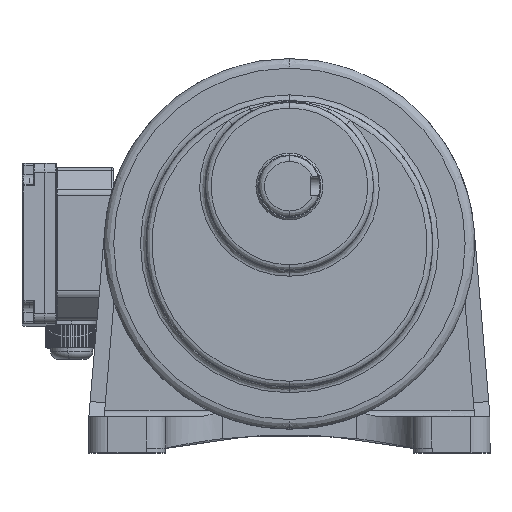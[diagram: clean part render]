
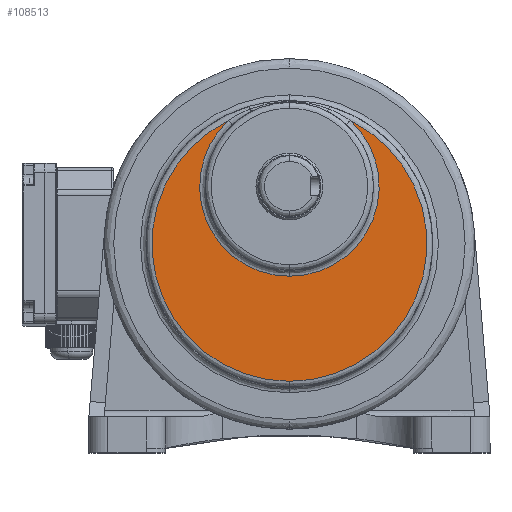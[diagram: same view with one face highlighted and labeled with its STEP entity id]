
A CAD part, top view. The second image highlights one B-rep face of the part: STEP entity #108513.
In plain terms, the highlighted planar face has unit normal (0, 0, 1) as drawn and (0, 1, 0) by its records, which use the part's own axes.
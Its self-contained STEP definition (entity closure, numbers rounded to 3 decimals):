
#2711 = DIRECTION ( 'NONE',  ( 0., -1., 0. ) ) ;
#14339 = AXIS2_PLACEMENT_3D ( 'NONE', #25676, #100382, #175146 ) ;
#15208 = DIRECTION ( 'NONE',  ( 0., 0., 1. ) ) ;
#18983 = EDGE_LOOP ( 'NONE', ( #188963, #242152, #37025, #131558 ) ) ;
#25676 = CARTESIAN_POINT ( 'NONE',  ( 0., 0., 30. ) ) ;
#27178 = EDGE_CURVE ( 'NONE', #167096, #142137, #119981, .T. ) ;
#28823 = DIRECTION ( 'NONE',  ( 0., 0., 1. ) ) ;
#37025 = ORIENTED_EDGE ( 'NONE', *, *, #217698, .T. ) ;
#37288 = DIRECTION ( 'NONE',  ( 0., -1., 0. ) ) ;
#47196 = PLANE ( 'NONE',  #166506 ) ;
#61544 = CARTESIAN_POINT ( 'NONE',  ( 31.828, 0., -34.583 ) ) ;
#74505 = CIRCLE ( 'NONE', #211541, 47. ) ;
#75142 = CARTESIAN_POINT ( 'NONE',  ( -31.828, 0., -34.583 ) ) ;
#75525 = VERTEX_POINT ( 'NONE', #110916 ) ;
#77466 = DIRECTION ( 'NONE',  ( 0., 0., 1. ) ) ;
#96979 = CIRCLE ( 'NONE', #128332, 47. ) ;
#97912 = CIRCLE ( 'NONE', #234925, 72. ) ;
#100382 = DIRECTION ( 'NONE',  ( 0., 1., 0. ) ) ;
#106201 = CARTESIAN_POINT ( 'NONE',  ( 0., 0., 102. ) ) ;
#108325 = CARTESIAN_POINT ( 'NONE',  ( 0., 0., 30. ) ) ;
#108513 = ADVANCED_FACE ( 'NONE', ( #233465 ), #47196, .T. ) ;
#110916 = CARTESIAN_POINT ( 'NONE',  ( 0., 0., 47. ) ) ;
#112019 = DIRECTION ( 'NONE',  ( 0., 0., 1. ) ) ;
#119981 = CIRCLE ( 'NONE', #14339, 72. ) ;
#121929 = CARTESIAN_POINT ( 'NONE',  ( 78., 0., -48.063 ) ) ;
#128332 = AXIS2_PLACEMENT_3D ( 'NONE', #205172, #37288, #112019 ) ;
#130932 = VERTEX_POINT ( 'NONE', #75142 ) ;
#131558 = ORIENTED_EDGE ( 'NONE', *, *, #132004, .T. ) ;
#132004 = EDGE_CURVE ( 'NONE', #75525, #130932, #74505, .T. ) ;
#142137 = VERTEX_POINT ( 'NONE', #61544 ) ;
#166506 = AXIS2_PLACEMENT_3D ( 'NONE', #121929, #196682, #28823 ) ;
#167096 = VERTEX_POINT ( 'NONE', #106201 ) ;
#170619 = CARTESIAN_POINT ( 'NONE',  ( 0., 0., 0. ) ) ;
#173546 = EDGE_CURVE ( 'NONE', #130932, #167096, #97912, .T. ) ;
#175146 = DIRECTION ( 'NONE',  ( 0., 0., 1. ) ) ;
#183087 = DIRECTION ( 'NONE',  ( 0., 1., 0. ) ) ;
#188963 = ORIENTED_EDGE ( 'NONE', *, *, #173546, .T. ) ;
#196682 = DIRECTION ( 'NONE',  ( 0., 1., 0. ) ) ;
#205172 = CARTESIAN_POINT ( 'NONE',  ( 0., 0., 0. ) ) ;
#211541 = AXIS2_PLACEMENT_3D ( 'NONE', #170619, #2711, #77466 ) ;
#217698 = EDGE_CURVE ( 'NONE', #142137, #75525, #96979, .T. ) ;
#233465 = FACE_OUTER_BOUND ( 'NONE', #18983, .T. ) ;
#234925 = AXIS2_PLACEMENT_3D ( 'NONE', #108325, #183087, #15208 ) ;
#242152 = ORIENTED_EDGE ( 'NONE', *, *, #27178, .T. ) ;
